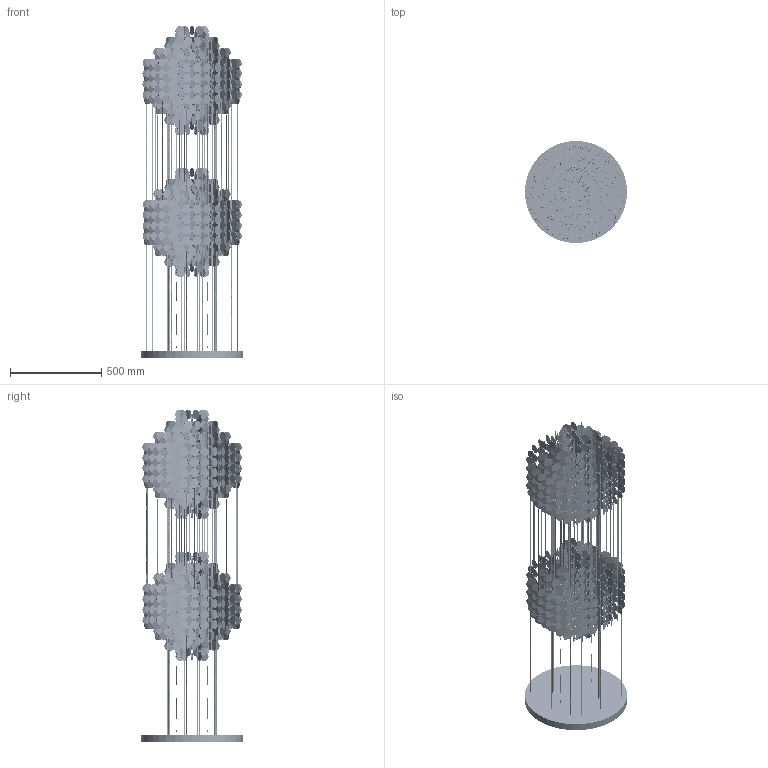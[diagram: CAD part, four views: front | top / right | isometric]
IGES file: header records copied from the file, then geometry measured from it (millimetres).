
Start section: SolidWorks IGES file using analytic representation for surfaces
Global section: file name: C:\Users\Chiina\Desktop\Chiina\Dokumendid\Frandsen Project\VerPan\FUN 5DM & 5DA\FUN 5 DM & 5DA assembly.IGS; native system: SolidWorks 2013; preprocessor: SolidWorks 2013; author: Chiina; date: 130107.205000; units: millimetre
Bounding box: 560 x 560 x 1819 mm (x, y, z)
Surface area: 8644889.9 mm2 (no closed solid volume)
Topology: 0 solids, 0 shells, 8870 faces, 269912 edges, 269912 vertices
Faces by surface type: revolution 4502, bspline 4368
